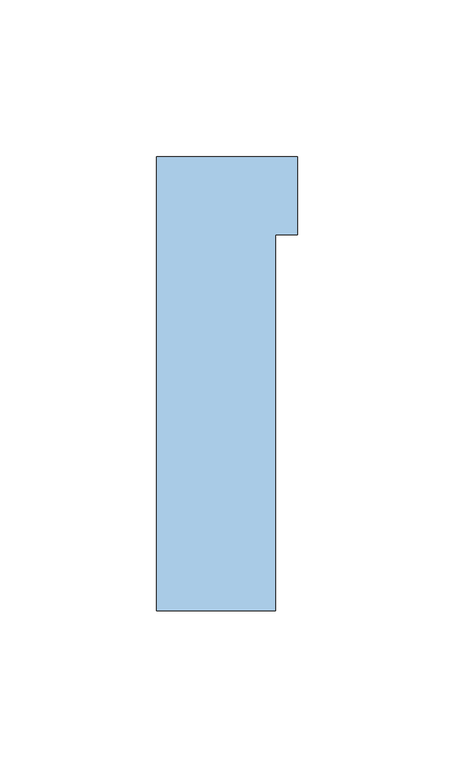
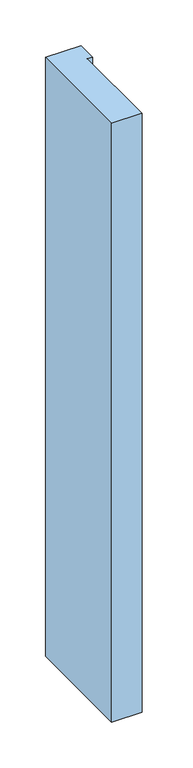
"""IFC4 building model written with IfcOpenShell, lengths in millimetres: window geometry, NLRS_30_WIN_spouwlat-zijstijll_sh_gen_TOBA-JM : ok-bk-recht-45x145."""

from ifc_helpers import new_model, si_unit, origin, origin_with_axes, place, context, project, spatial, polyline, outline, extrude, source, transform, mapped, element, save


def window_7516f263(model_context):
    return source(origin(), model_context, "Body", "SweptSolid", [
        extrude(outline(polyline([(-38.0, -145.0), (-38.0, 0.0), (7.0, 0.0), (7.0, -25.0), (0.0, -25.0), (0.0, -145.0), (-38.0, -145.0)])), origin_with_axes(), (0.0, 0.0, 1.0), 800.0),
    ])


if __name__ == "__main__":
    model = new_model("IFC4")
    model_context = context("Model", 3, world=origin())
    ifc_project = project(units=[si_unit("LENGTHUNIT", "METRE", prefix="MILLI")], contexts=[model_context])
    site = spatial("IfcSite", under=ifc_project)
    building = spatial("IfcBuilding", under=site)
    placement = place(None, origin())
    window_shape = window_7516f263(model_context)
    element("IfcWindow", 1, ObjectType="NLRS_30_WIN_spouwlat-zijstijll_sh_gen_TOBA-JM : ok-bk-recht-45x145", at=placement, inside=building, context=model_context, shape_type="MappedRepresentation", body=[
        mapped(window_shape, transform((0.0, 0.0, 0.0), x_axis=(1.0, 0.0, 0.0), y_axis=(0.0, 1.0, 0.0), z_axis=(0.0, 0.0, 1.0))),
    ])
    save(model, "model.ifc")
